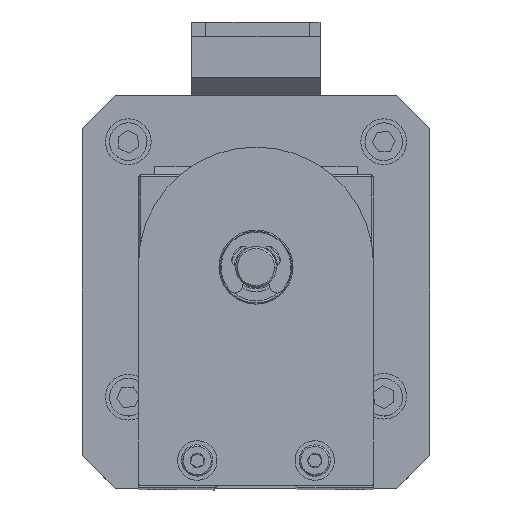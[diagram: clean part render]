
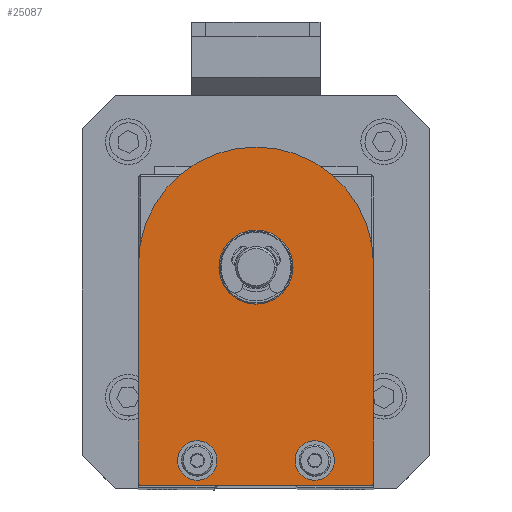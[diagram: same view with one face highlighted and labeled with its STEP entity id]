
A CAD part, top view. The second image highlights one B-rep face of the part: STEP entity #25087.
In plain terms, the highlighted planar face has unit normal (0, 0, 1) as drawn and (0, 0, -1) by its records, which use the part's own axes.
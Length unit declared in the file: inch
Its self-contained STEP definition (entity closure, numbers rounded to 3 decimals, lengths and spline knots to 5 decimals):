
#46 = FACE_BOUND ( 'NONE', #24264, .T. ) ;
#952 = DIRECTION ( 'NONE',  ( 1., 0., 0. ) ) ;
#1082 = ORIENTED_EDGE ( 'NONE', *, *, #27133, .T. ) ;
#1109 = AXIS2_PLACEMENT_3D ( 'NONE', #4370, #22790, #4520 ) ;
#1772 = ORIENTED_EDGE ( 'NONE', *, *, #24459, .F. ) ;
#2085 = CARTESIAN_POINT ( 'NONE',  ( -0.18676, 0.11811, -0.15625 ) ) ;
#2194 = AXIS2_PLACEMENT_3D ( 'NONE', #22256, #18335, #27501 ) ;
#2813 = VERTEX_POINT ( 'NONE', #13074 ) ;
#3170 = VERTEX_POINT ( 'NONE', #22065 ) ;
#3195 = EDGE_LOOP ( 'NONE', ( #1772, #26303 ) ) ;
#3557 = EDGE_CURVE ( 'NONE', #12159, #10292, #5009, .T. ) ;
#3658 = DIRECTION ( 'NONE',  ( 0., 0., -1. ) ) ;
#3846 = AXIS2_PLACEMENT_3D ( 'NONE', #10468, #28803, #8165 ) ;
#3994 = VECTOR ( 'NONE', #5713, 39.37008 ) ;
#4114 = CIRCLE ( 'NONE', #2194, 0.01 ) ;
#4370 = CARTESIAN_POINT ( 'NONE',  ( 0., 1.04292, -0.15625 ) ) ;
#4520 = DIRECTION ( 'NONE',  ( 1., 0., 0. ) ) ;
#5009 = CIRCLE ( 'NONE', #1109, 0.17717 ) ;
#5713 = DIRECTION ( 'NONE',  ( 0., -1., 0. ) ) ;
#5726 = VERTEX_POINT ( 'NONE', #11571 ) ;
#5798 = CARTESIAN_POINT ( 'NONE',  ( -0.28125, 0.11811, -0.15625 ) ) ;
#5867 = AXIS2_PLACEMENT_3D ( 'NONE', #24039, #3658, #19195 ) ;
#6055 = AXIS2_PLACEMENT_3D ( 'NONE', #25968, #19345, #24188 ) ;
#6404 = VERTEX_POINT ( 'NONE', #20612 ) ;
#6546 = DIRECTION ( 'NONE',  ( 0., 0., 1. ) ) ;
#6700 = CARTESIAN_POINT ( 'NONE',  ( -0.5625, 1.05487, -0.15625 ) ) ;
#6722 = ORIENTED_EDGE ( 'NONE', *, *, #10885, .T. ) ;
#6921 = CARTESIAN_POINT ( 'NONE',  ( 0.5625, 0.01, -0.15625 ) ) ;
#7358 = CIRCLE ( 'NONE', #16540, 0.5625 ) ;
#8009 = CIRCLE ( 'NONE', #6055, 0.09449 ) ;
#8064 = DIRECTION ( 'NONE',  ( 0., 0., 1. ) ) ;
#8137 = VECTOR ( 'NONE', #9924, 39.37008 ) ;
#8165 = DIRECTION ( 'NONE',  ( 1., 0., 0. ) ) ;
#8391 = CARTESIAN_POINT ( 'NONE',  ( 0.5625, 1.05487, -0.15625 ) ) ;
#8498 = ORIENTED_EDGE ( 'NONE', *, *, #15851, .F. ) ;
#8829 = FACE_BOUND ( 'NONE', #14554, .T. ) ;
#8855 = CARTESIAN_POINT ( 'NONE',  ( 0.5525, 0., -0.15625 ) ) ;
#9603 = CARTESIAN_POINT ( 'NONE',  ( 0., 1.04292, -0.15625 ) ) ;
#9924 = DIRECTION ( 'NONE',  ( 0., -1., 0. ) ) ;
#10084 = LINE ( 'NONE', #19269, #28110 ) ;
#10143 = ORIENTED_EDGE ( 'NONE', *, *, #22009, .F. ) ;
#10292 = VERTEX_POINT ( 'NONE', #29703 ) ;
#10468 = CARTESIAN_POINT ( 'NONE',  ( 0.5525, 0.01, -0.15625 ) ) ;
#10885 = EDGE_CURVE ( 'NONE', #10292, #12159, #29551, .T. ) ;
#11176 = VERTEX_POINT ( 'NONE', #28323 ) ;
#11429 = FACE_BOUND ( 'NONE', #3195, .T. ) ;
#11436 = VERTEX_POINT ( 'NONE', #6921 ) ;
#11571 = CARTESIAN_POINT ( 'NONE',  ( -0.5525, 0., -0.15625 ) ) ;
#12108 = EDGE_CURVE ( 'NONE', #5726, #3170, #4114, .T. ) ;
#12159 = VERTEX_POINT ( 'NONE', #25413 ) ;
#12494 = CARTESIAN_POINT ( 'NONE',  ( -0.5625, 1.05487, -0.15625 ) ) ;
#12697 = LINE ( 'NONE', #12999, #3994 ) ;
#12924 = DIRECTION ( 'NONE',  ( 0., 0., -1. ) ) ;
#12999 = CARTESIAN_POINT ( 'NONE',  ( 0.5625, 1.05487, -0.15625 ) ) ;
#13074 = CARTESIAN_POINT ( 'NONE',  ( 0.37574, 0.11811, -0.15625 ) ) ;
#13769 = EDGE_CURVE ( 'NONE', #2813, #11176, #8009, .T. ) ;
#14554 = EDGE_LOOP ( 'NONE', ( #10143, #16963 ) ) ;
#15197 = DIRECTION ( 'NONE',  ( 1., 0., 0. ) ) ;
#15804 = DIRECTION ( 'NONE',  ( 1., 0., 0. ) ) ;
#15820 = EDGE_CURVE ( 'NONE', #18355, #27490, #21146, .T. ) ;
#15851 = EDGE_CURVE ( 'NONE', #6404, #3170, #28156, .T. ) ;
#16162 = VERTEX_POINT ( 'NONE', #8391 ) ;
#16163 = DIRECTION ( 'NONE',  ( 0., 0., -1. ) ) ;
#16178 = CARTESIAN_POINT ( 'NONE',  ( -0.37574, 0.11811, -0.15625 ) ) ;
#16540 = AXIS2_PLACEMENT_3D ( 'NONE', #28709, #8064, #19844 ) ;
#16963 = ORIENTED_EDGE ( 'NONE', *, *, #13769, .F. ) ;
#17805 = AXIS2_PLACEMENT_3D ( 'NONE', #22921, #16163, #25330 ) ;
#18195 = PLANE ( 'NONE',  #19532 ) ;
#18335 = DIRECTION ( 'NONE',  ( 0., 0., -1. ) ) ;
#18355 = VERTEX_POINT ( 'NONE', #2085 ) ;
#19089 = DIRECTION ( 'NONE',  ( 0., 0., 1. ) ) ;
#19195 = DIRECTION ( 'NONE',  ( -1., 0., 0. ) ) ;
#19269 = CARTESIAN_POINT ( 'NONE',  ( -0.5625, 0., -0.15625 ) ) ;
#19345 = DIRECTION ( 'NONE',  ( 0., 0., -1. ) ) ;
#19532 = AXIS2_PLACEMENT_3D ( 'NONE', #6700, #6546, #15804 ) ;
#19844 = DIRECTION ( 'NONE',  ( -1., 0., 0. ) ) ;
#20612 = CARTESIAN_POINT ( 'NONE',  ( -0.5625, 1.05487, -0.15625 ) ) ;
#21146 = CIRCLE ( 'NONE', #17805, 0.09449 ) ;
#22009 = EDGE_CURVE ( 'NONE', #11176, #2813, #28057, .T. ) ;
#22065 = CARTESIAN_POINT ( 'NONE',  ( -0.5625, 0.01, -0.15625 ) ) ;
#22256 = CARTESIAN_POINT ( 'NONE',  ( -0.5525, 0.01, -0.15625 ) ) ;
#22286 = EDGE_CURVE ( 'NONE', #16162, #11436, #12697, .T. ) ;
#22541 = ORIENTED_EDGE ( 'NONE', *, *, #12108, .T. ) ;
#22790 = DIRECTION ( 'NONE',  ( 0., 0., 1. ) ) ;
#22879 = FACE_OUTER_BOUND ( 'NONE', #28530, .T. ) ;
#22921 = CARTESIAN_POINT ( 'NONE',  ( -0.28125, 0.11811, -0.15625 ) ) ;
#23657 = EDGE_CURVE ( 'NONE', #16162, #6404, #7358, .T. ) ;
#23819 = AXIS2_PLACEMENT_3D ( 'NONE', #5798, #12924, #15197 ) ;
#24030 = EDGE_CURVE ( 'NONE', #24128, #5726, #10084, .T. ) ;
#24039 = CARTESIAN_POINT ( 'NONE',  ( 0.28125, 0.11811, -0.15625 ) ) ;
#24060 = ORIENTED_EDGE ( 'NONE', *, *, #23657, .F. ) ;
#24128 = VERTEX_POINT ( 'NONE', #8855 ) ;
#24188 = DIRECTION ( 'NONE',  ( -1., 0., 0. ) ) ;
#24264 = EDGE_LOOP ( 'NONE', ( #6722, #29123 ) ) ;
#24459 = EDGE_CURVE ( 'NONE', #27490, #18355, #29101, .T. ) ;
#25087 = ADVANCED_FACE ( 'NONE', ( #11429, #8829, #46, #22879 ), #18195, .F. ) ;
#25330 = DIRECTION ( 'NONE',  ( 1., 0., 0. ) ) ;
#25413 = CARTESIAN_POINT ( 'NONE',  ( -0.17717, 1.04292, -0.15625 ) ) ;
#25968 = CARTESIAN_POINT ( 'NONE',  ( 0.28125, 0.11811, -0.15625 ) ) ;
#26303 = ORIENTED_EDGE ( 'NONE', *, *, #15820, .F. ) ;
#26494 = DIRECTION ( 'NONE',  ( -1., 0., 0. ) ) ;
#26657 = AXIS2_PLACEMENT_3D ( 'NONE', #9603, #19089, #952 ) ;
#27133 = EDGE_CURVE ( 'NONE', #11436, #24128, #27429, .T. ) ;
#27429 = CIRCLE ( 'NONE', #3846, 0.01 ) ;
#27490 = VERTEX_POINT ( 'NONE', #16178 ) ;
#27501 = DIRECTION ( 'NONE',  ( 1., 0., 0. ) ) ;
#28057 = CIRCLE ( 'NONE', #5867, 0.09449 ) ;
#28110 = VECTOR ( 'NONE', #26494, 39.37008 ) ;
#28156 = LINE ( 'NONE', #12494, #8137 ) ;
#28323 = CARTESIAN_POINT ( 'NONE',  ( 0.18676, 0.11811, -0.15625 ) ) ;
#28530 = EDGE_LOOP ( 'NONE', ( #29807, #1082, #29145, #22541, #8498, #24060 ) ) ;
#28709 = CARTESIAN_POINT ( 'NONE',  ( 0., 1.05487, -0.15625 ) ) ;
#28803 = DIRECTION ( 'NONE',  ( 0., 0., -1. ) ) ;
#29101 = CIRCLE ( 'NONE', #23819, 0.09449 ) ;
#29123 = ORIENTED_EDGE ( 'NONE', *, *, #3557, .T. ) ;
#29145 = ORIENTED_EDGE ( 'NONE', *, *, #24030, .T. ) ;
#29551 = CIRCLE ( 'NONE', #26657, 0.17717 ) ;
#29703 = CARTESIAN_POINT ( 'NONE',  ( 0.17717, 1.04292, -0.15625 ) ) ;
#29807 = ORIENTED_EDGE ( 'NONE', *, *, #22286, .T. ) ;
